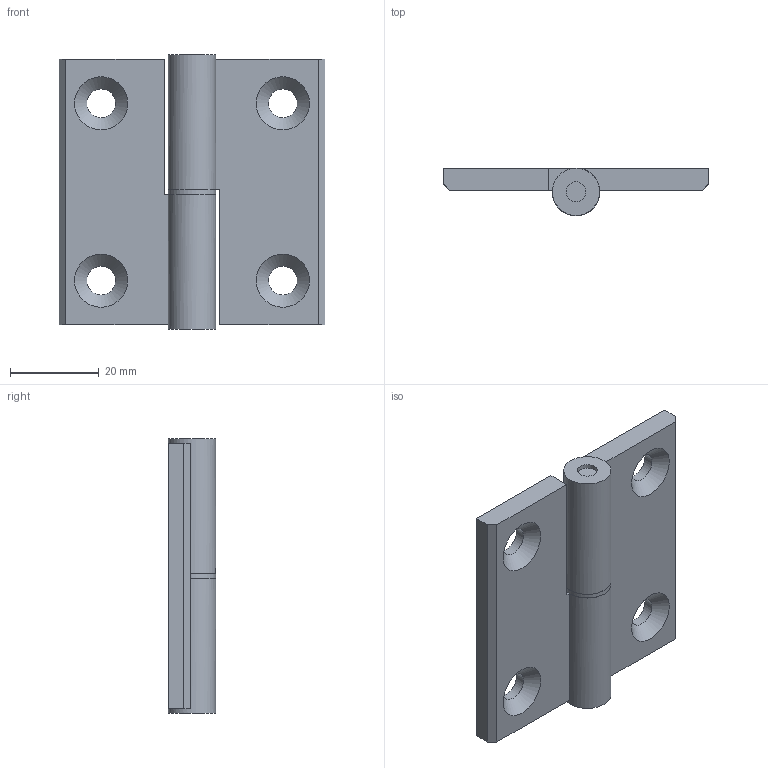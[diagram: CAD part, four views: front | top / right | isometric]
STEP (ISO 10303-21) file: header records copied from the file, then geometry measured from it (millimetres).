
FILE_DESCRIPTION((''),'2;1');
FILE_NAME('E:\catalogue and flyer\Profile catalogue 2015\Accessories ACC info\Accessories ACC step file 31Mar16\ACC-MHL6060-8.stp','2016-04-07T13:26:31',('h029'),(''),'Autodesk Inventor 11','Autodesk Inventor 11','');
FILE_SCHEMA(('AUTOMOTIVE_DESIGN { 1 0 10303 214 1 1 1 1 }'));
Length unit declared in the file: millimetre
Products named in the file (4): ACC-MHL6060-8; hinge part 1; pin; washer
Assembly tree (4 placements, depth 2):
  ACC-MHL6060-8
    hinge part 1  x2
    pin
    washer
Bounding box: 60 x 10.7 x 62 mm (x, y, z)
Volume: 19244.5 mm3; surface area: 10964.7 mm2
Topology: 4 solids, 4 shells, 43 faces, 93 edges, 62 vertices
Faces by surface type: plane 26, cylinder 9, bspline 8
Full cylindrical faces by diameter (mm): 4 x2, 4.5 x4, 10.7 x3
Entity records: 762 total; most frequent: CARTESIAN_POINT 170, DIRECTION 115, ORIENTED_EDGE 76, AXIS2_PLACEMENT_3D 48, EDGE_LOOP 43, EDGE_CURVE 38, VERTEX_POINT 31, FACE_OUTER_BOUND 25
